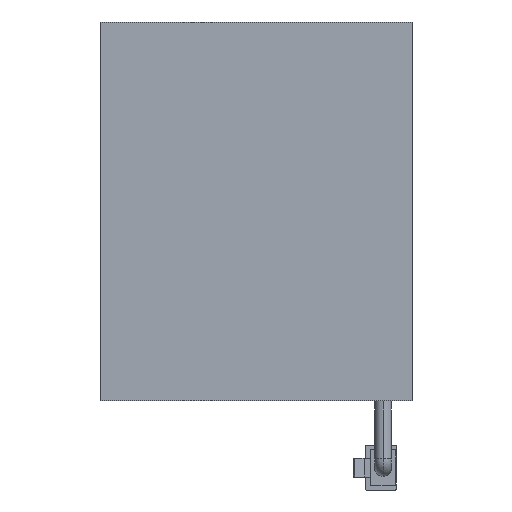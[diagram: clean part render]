
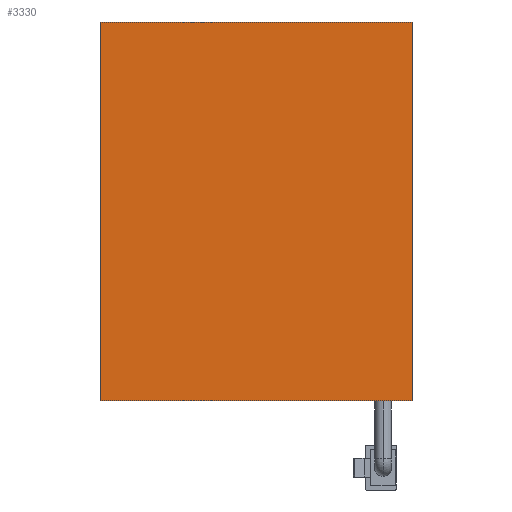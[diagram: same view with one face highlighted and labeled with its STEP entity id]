
A CAD part, left-side view. The second image highlights one B-rep face of the part: STEP entity #3330.
In plain terms, the highlighted planar face has unit normal (-1, 0, 0).
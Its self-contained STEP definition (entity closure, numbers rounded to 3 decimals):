
#70 = VECTOR ( 'NONE', #5171, 1000. ) ;
#260 = ORIENTED_EDGE ( 'NONE', *, *, #6196, .T. ) ;
#304 = ORIENTED_EDGE ( 'NONE', *, *, #4237, .F. ) ;
#331 = VECTOR ( 'NONE', #3138, 1000. ) ;
#359 = LINE ( 'NONE', #1491, #5372 ) ;
#362 = CARTESIAN_POINT ( 'NONE',  ( 0., 0., 85. ) ) ;
#428 = LINE ( 'NONE', #5235, #6524 ) ;
#528 = ORIENTED_EDGE ( 'NONE', *, *, #5547, .F. ) ;
#887 = AXIS2_PLACEMENT_3D ( 'NONE', #2809, #6963, #6923 ) ;
#1126 = CARTESIAN_POINT ( 'NONE',  ( 0., 0., 0. ) ) ;
#1357 = ORIENTED_EDGE ( 'NONE', *, *, #4558, .T. ) ;
#1360 = VERTEX_POINT ( 'NONE', #6224 ) ;
#1491 = CARTESIAN_POINT ( 'NONE',  ( 0., 0., 85. ) ) ;
#2809 = CARTESIAN_POINT ( 'NONE',  ( 0., 0., 85. ) ) ;
#3138 = DIRECTION ( 'NONE',  ( 0., 0., -1. ) ) ;
#3330 = ADVANCED_FACE ( 'NONE', ( #6487 ), #3991, .F. ) ;
#3438 = CARTESIAN_POINT ( 'NONE',  ( 0., 0., 85. ) ) ;
#3839 = VERTEX_POINT ( 'NONE', #3438 ) ;
#3991 = PLANE ( 'NONE',  #887 ) ;
#4237 = EDGE_CURVE ( 'NONE', #1360, #3839, #5763, .T. ) ;
#4416 = DIRECTION ( 'NONE',  ( 0., 0., -1. ) ) ;
#4558 = EDGE_CURVE ( 'NONE', #1360, #6125, #5511, .T. ) ;
#5171 = DIRECTION ( 'NONE',  ( 0., -1., 0. ) ) ;
#5235 = CARTESIAN_POINT ( 'NONE',  ( 0., 0., 0. ) ) ;
#5372 = VECTOR ( 'NONE', #4416, 1000. ) ;
#5511 = LINE ( 'NONE', #7326, #331 ) ;
#5547 = EDGE_CURVE ( 'NONE', #3839, #6241, #359, .T. ) ;
#5763 = LINE ( 'NONE', #362, #70 ) ;
#6125 = VERTEX_POINT ( 'NONE', #6852 ) ;
#6196 = EDGE_CURVE ( 'NONE', #6125, #6241, #428, .T. ) ;
#6224 = CARTESIAN_POINT ( 'NONE',  ( 0., 70., 85. ) ) ;
#6241 = VERTEX_POINT ( 'NONE', #1126 ) ;
#6487 = FACE_OUTER_BOUND ( 'NONE', #6605, .T. ) ;
#6498 = DIRECTION ( 'NONE',  ( 0., -1., 0. ) ) ;
#6524 = VECTOR ( 'NONE', #6498, 1000. ) ;
#6605 = EDGE_LOOP ( 'NONE', ( #260, #528, #304, #1357 ) ) ;
#6852 = CARTESIAN_POINT ( 'NONE',  ( 0., 70., 0. ) ) ;
#6923 = DIRECTION ( 'NONE',  ( 0., 0., -1. ) ) ;
#6963 = DIRECTION ( 'NONE',  ( 1., 0., 0. ) ) ;
#7326 = CARTESIAN_POINT ( 'NONE',  ( 0., 70., 85. ) ) ;
